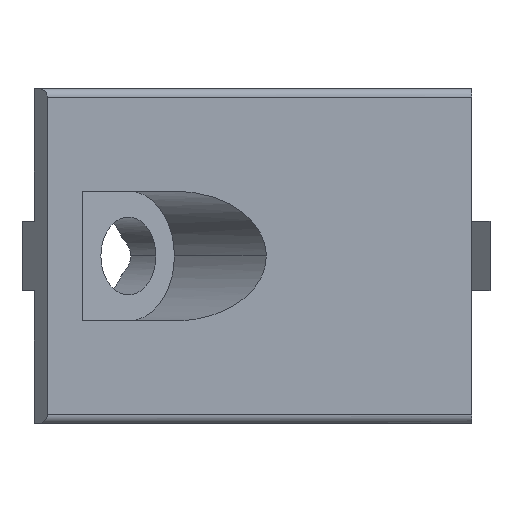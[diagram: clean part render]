
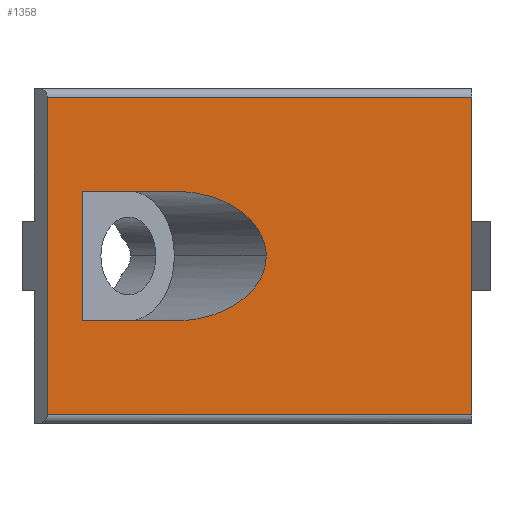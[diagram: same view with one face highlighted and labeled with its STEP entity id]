
A CAD part, left-side view. The second image highlights one B-rep face of the part: STEP entity #1358.
In plain terms, the highlighted planar face has unit normal (-1, 0, 0).
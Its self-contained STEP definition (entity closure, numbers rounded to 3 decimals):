
#54 = EDGE_CURVE ( 'NONE', #2036, #426, #1450, .T. ) ;
#62 = CARTESIAN_POINT ( 'NONE',  ( -40., 44.929, 7.5 ) ) ;
#69 = ORIENTED_EDGE ( 'NONE', *, *, #929, .T. ) ;
#74 = CARTESIAN_POINT ( 'NONE',  ( -40., 34.322, 7.5 ) ) ;
#115 = DIRECTION ( 'NONE',  ( 0., 1., 0. ) ) ;
#285 = CARTESIAN_POINT ( 'NONE',  ( -40., 50.5, -18.35 ) ) ;
#303 = CARTESIAN_POINT ( 'NONE',  ( -40., 23.716, 0. ) ) ;
#340 = CARTESIAN_POINT ( 'NONE',  ( -40., 28.109, 7.5 ) ) ;
#347 = EDGE_CURVE ( 'NONE', #1227, #1289, #1984, .T. ) ;
#426 = VERTEX_POINT ( 'NONE', #1560 ) ;
#450 = CARTESIAN_POINT ( 'NONE',  ( -40., 50.5, 7.5 ) ) ;
#452 = LINE ( 'NONE', #527, #2233 ) ;
#479 = CARTESIAN_POINT ( 'NONE',  ( -40., 0., -19.35 ) ) ;
#481 = EDGE_CURVE ( 'NONE', #655, #1606, #452, .T. ) ;
#496 = ORIENTED_EDGE ( 'NONE', *, *, #1235, .T. ) ;
#507 = DIRECTION ( 'NONE',  ( 0., 1., 0. ) ) ;
#523 = CARTESIAN_POINT ( 'NONE',  ( -40., 44.929, -19.35 ) ) ;
#527 = CARTESIAN_POINT ( 'NONE',  ( -40., 49., 18.35 ) ) ;
#529 = CARTESIAN_POINT ( 'NONE',  ( -40., 34.322, -7.5 ) ) ;
#532 = CARTESIAN_POINT ( 'NONE',  ( -40., 0., -18.35 ) ) ;
#583 = VERTEX_POINT ( 'NONE', #1256 ) ;
#584 = ORIENTED_EDGE ( 'NONE', *, *, #481, .T. ) ;
#613 = ORIENTED_EDGE ( 'NONE', *, *, #1853, .T. ) ;
#655 = VERTEX_POINT ( 'NONE', #1702 ) ;
#728 = LINE ( 'NONE', #2112, #1969 ) ;
#730 = FACE_OUTER_BOUND ( 'NONE', #914, .T. ) ;
#817 = DIRECTION ( 'NONE',  ( -1., 0., 0. ) ) ;
#825 =( BOUNDED_CURVE ( )  B_SPLINE_CURVE ( 3, ( #303, #1635, #1074, #529 ),
 .UNSPECIFIED., .F., .T. ) 
 B_SPLINE_CURVE_WITH_KNOTS ( ( 4, 4 ),
 ( 0., 1.571 ),
 .UNSPECIFIED. ) 
 CURVE ( )  GEOMETRIC_REPRESENTATION_ITEM ( )  RATIONAL_B_SPLINE_CURVE ( ( 1., 0.805, 0.805, 1. ) ) 
 REPRESENTATION_ITEM ( '' )  );
#829 = CARTESIAN_POINT ( 'NONE',  ( -40., 50.5, -7.5 ) ) ;
#848 = EDGE_CURVE ( 'NONE', #2037, #1606, #728, .T. ) ;
#892 = CARTESIAN_POINT ( 'NONE',  ( -40., 23.716, 4.393 ) ) ;
#914 = EDGE_LOOP ( 'NONE', ( #1249, #1061, #613, #584 ) ) ;
#929 = EDGE_CURVE ( 'NONE', #2036, #1227, #1191, .T. ) ;
#935 = DIRECTION ( 'NONE',  ( 0., -1., 0. ) ) ;
#942 = VECTOR ( 'NONE', #948, 1000. ) ;
#948 = DIRECTION ( 'NONE',  ( 0., 0., 1. ) ) ;
#969 = FACE_BOUND ( 'NONE', #2130, .T. ) ;
#1032 = LINE ( 'NONE', #479, #942 ) ;
#1061 = ORIENTED_EDGE ( 'NONE', *, *, #2271, .T. ) ;
#1074 = CARTESIAN_POINT ( 'NONE',  ( -40., 28.109, -7.5 ) ) ;
#1156 = LINE ( 'NONE', #285, #1210 ) ;
#1191 = LINE ( 'NONE', #450, #1608 ) ;
#1210 = VECTOR ( 'NONE', #2105, 1000. ) ;
#1227 = VERTEX_POINT ( 'NONE', #1999 ) ;
#1235 = EDGE_CURVE ( 'NONE', #583, #426, #1293, .T. ) ;
#1249 = ORIENTED_EDGE ( 'NONE', *, *, #848, .F. ) ;
#1256 = CARTESIAN_POINT ( 'NONE',  ( -40., 34.322, -7.5 ) ) ;
#1289 = VERTEX_POINT ( 'NONE', #1300 ) ;
#1293 = LINE ( 'NONE', #829, #2180 ) ;
#1300 = CARTESIAN_POINT ( 'NONE',  ( -40., 23.716, 0. ) ) ;
#1356 = ORIENTED_EDGE ( 'NONE', *, *, #1507, .T. ) ;
#1358 = ADVANCED_FACE ( 'NONE', ( #730, #969 ), #1912, .T. ) ;
#1375 = CARTESIAN_POINT ( 'NONE',  ( -40., 49., -18.35 ) ) ;
#1420 = AXIS2_PLACEMENT_3D ( 'NONE', #2293, #817, #935 ) ;
#1434 = VERTEX_POINT ( 'NONE', #532 ) ;
#1450 = LINE ( 'NONE', #523, #2026 ) ;
#1507 = EDGE_CURVE ( 'NONE', #1289, #583, #825, .T. ) ;
#1560 = CARTESIAN_POINT ( 'NONE',  ( -40., 44.929, -7.5 ) ) ;
#1606 = VERTEX_POINT ( 'NONE', #1966 ) ;
#1608 = VECTOR ( 'NONE', #2050, 1000. ) ;
#1635 = CARTESIAN_POINT ( 'NONE',  ( -40., 23.716, -4.393 ) ) ;
#1702 = CARTESIAN_POINT ( 'NONE',  ( -40., 0., 18.35 ) ) ;
#1800 = ORIENTED_EDGE ( 'NONE', *, *, #54, .F. ) ;
#1853 = EDGE_CURVE ( 'NONE', #1434, #655, #1032, .T. ) ;
#1912 = PLANE ( 'NONE',  #1420 ) ;
#1966 = CARTESIAN_POINT ( 'NONE',  ( -40., 49., 18.35 ) ) ;
#1969 = VECTOR ( 'NONE', #2207, 1000. ) ;
#1984 =( BOUNDED_CURVE ( )  B_SPLINE_CURVE ( 3, ( #74, #340, #892, #2273 ),
 .UNSPECIFIED., .F., .F. ) 
 B_SPLINE_CURVE_WITH_KNOTS ( ( 4, 4 ),
 ( 4.712, 6.283 ),
 .UNSPECIFIED. ) 
 CURVE ( )  GEOMETRIC_REPRESENTATION_ITEM ( )  RATIONAL_B_SPLINE_CURVE ( ( 1., 0.805, 0.805, 1. ) ) 
 REPRESENTATION_ITEM ( '' )  );
#1999 = CARTESIAN_POINT ( 'NONE',  ( -40., 34.322, 7.5 ) ) ;
#2026 = VECTOR ( 'NONE', #2256, 1000. ) ;
#2033 = ORIENTED_EDGE ( 'NONE', *, *, #347, .T. ) ;
#2036 = VERTEX_POINT ( 'NONE', #62 ) ;
#2037 = VERTEX_POINT ( 'NONE', #1375 ) ;
#2050 = DIRECTION ( 'NONE',  ( 0., -1., 0. ) ) ;
#2105 = DIRECTION ( 'NONE',  ( 0., -1., 0. ) ) ;
#2112 = CARTESIAN_POINT ( 'NONE',  ( -40., 49., -75.216 ) ) ;
#2130 = EDGE_LOOP ( 'NONE', ( #69, #2033, #1356, #496, #1800 ) ) ;
#2180 = VECTOR ( 'NONE', #507, 1000. ) ;
#2207 = DIRECTION ( 'NONE',  ( 0., 0., 1. ) ) ;
#2233 = VECTOR ( 'NONE', #115, 1000. ) ;
#2256 = DIRECTION ( 'NONE',  ( 0., 0., -1. ) ) ;
#2271 = EDGE_CURVE ( 'NONE', #2037, #1434, #1156, .T. ) ;
#2273 = CARTESIAN_POINT ( 'NONE',  ( -40., 23.716, 0. ) ) ;
#2293 = CARTESIAN_POINT ( 'NONE',  ( -40., 50.5, -19.35 ) ) ;
